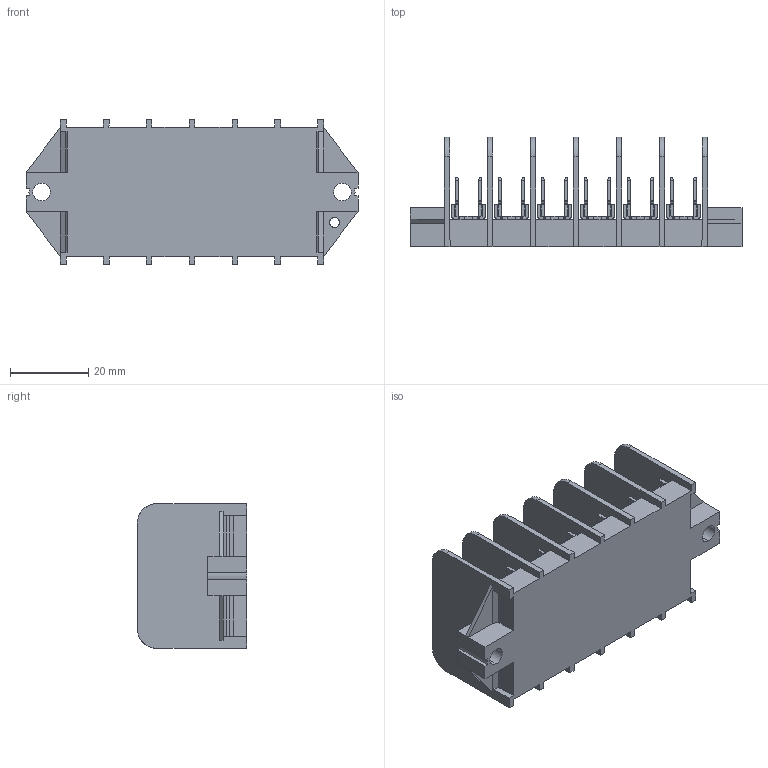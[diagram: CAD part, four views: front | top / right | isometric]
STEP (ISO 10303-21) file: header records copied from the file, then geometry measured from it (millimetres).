
FILE_DESCRIPTION (( 'STEP AP203' ), '1' );
FILE_NAME ('308-PA-102-06.STEP', '2018-05-23T21:33:42', ( '' ), ( '' ), 'SwSTEP 2.0', 'SolidWorks 2016', '' );
FILE_SCHEMA (( 'CONFIG_CONTROL_DESIGN' ));
Length unit declared in the file: millimetre
Products named in the file (1): 308-PA-102-06
Bounding box: 85 x 28 x 37 mm (x, y, z)
Volume: 26147.2 mm3; surface area: 24137.7 mm2
Topology: 1 solids, 1 shells, 1592 faces, 4536 edges, 2916 vertices
Faces by surface type: plane 1042, cylinder 538, bspline 12
Entity records: 53205 total; most frequent: CARTESIAN_POINT 11541, ORIENTED_EDGE 9072, DIRECTION 8226, EDGE_CURVE 4536, VECTOR 3424, LINE 3424, VERTEX_POINT 2916, AXIS2_PLACEMENT_3D 2401
